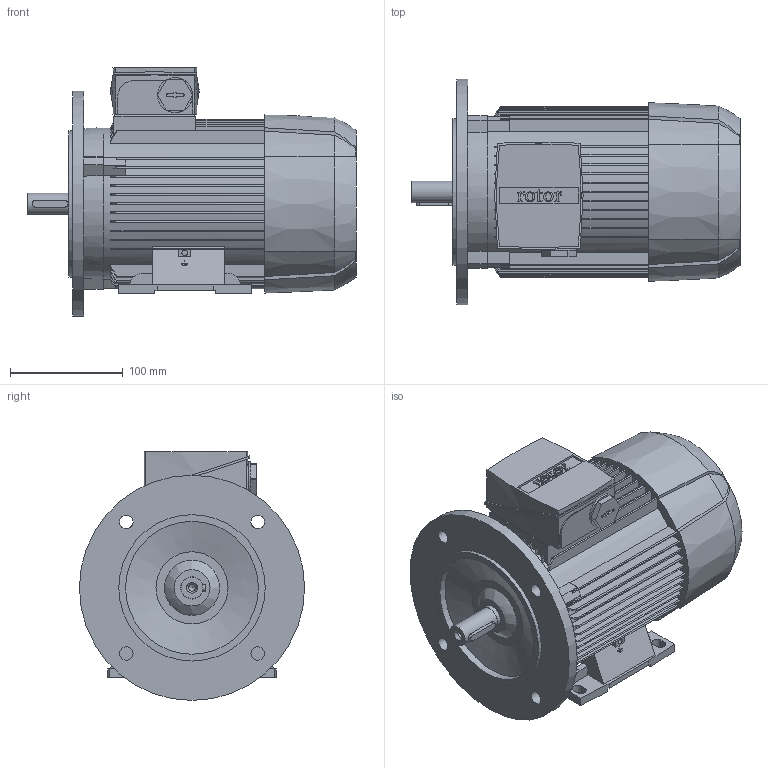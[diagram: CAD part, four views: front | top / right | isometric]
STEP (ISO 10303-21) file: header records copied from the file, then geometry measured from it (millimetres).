
FILE_DESCRIPTION (( 'STEP AP214' ), '1' );
FILE_NAME ('6RN80M02E12 IM2041.STEP', '2017-03-13T08:20:13', ( 'rbc_ict' ), ( '' ), 'SwSTEP 2.0', 'SolidWorks 2015', '' );
FILE_SCHEMA (( 'AUTOMOTIVE_DESIGN' ));
Length unit declared in the file: millimetre
Products named in the file (1): 6RN80M02E12 IM2041
Bounding box: 292 x 200 x 221 mm (x, y, z)
Volume: 4596856.5 mm3; surface area: 326631.4 mm2
Topology: 7 solids, 7 shells, 589 faces, 1642 edges, 1089 vertices
Faces by surface type: plane 377, cylinder 101, bspline 98, cone 13
Full cylindrical faces by diameter (mm): 5 x2, 6 x1, 12 x4, 19 x1, 20 x1, 31 x1, 118 x1, 130 x1, 200 x1
Entity records: 27375 total; most frequent: CARTESIAN_POINT 7323, ORIENTED_EDGE 3240, DIRECTION 2623, EDGE_CURVE 1620, VERTEX_POINT 1085, VECTOR 1021, LINE 1021, AXIS2_PLACEMENT_3D 801
